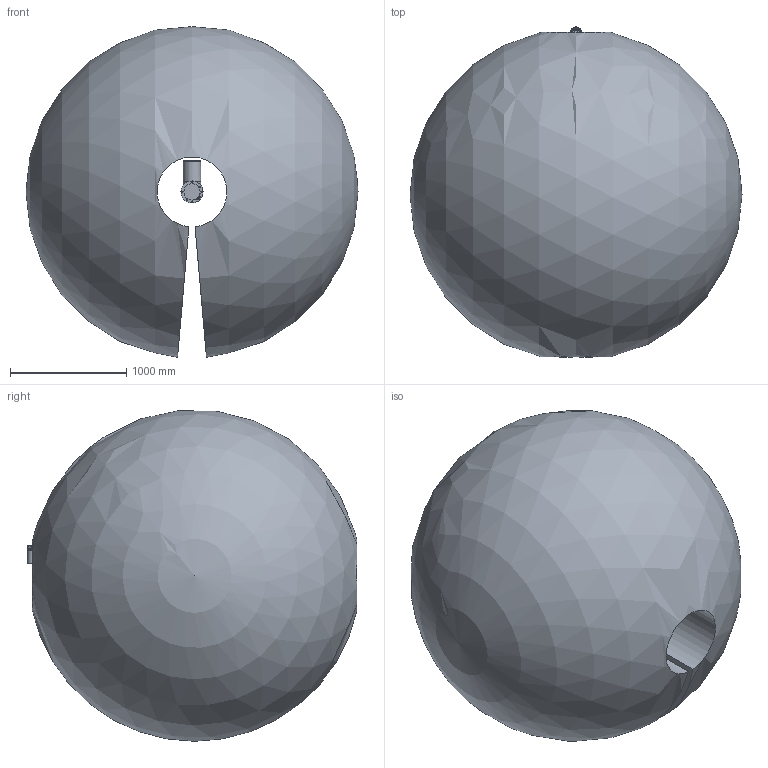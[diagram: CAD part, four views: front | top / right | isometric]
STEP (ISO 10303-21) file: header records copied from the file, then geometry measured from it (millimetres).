
FILE_DESCRIPTION (( 'STEP AP214' ), '1' );
FILE_NAME ('FR10-V6.0-外发模型-包络图.STEP', '2025-12-27T22:20:55', ( '崔兵' ), ( '' ), 'SwSTEP 2.0', 'SolidWorks 2018', '' );
FILE_SCHEMA (( 'AUTOMOTIVE_DESIGN' ));
Length unit declared in the file: millimetre
Products named in the file (8): RD20-FR10-V6.0-7; RD20-FR10-V6.0-1; RD20-FR10-V6.0-3; RD20-FR10-V6.0-4; FR10堍雄寢慫; FR10-V6.0-俋楷耀倰-婦釐芞; RD20-FR10-V6.0-5; RD20-FR10-V6.0-2
Assembly tree (8 placements, depth 2):
  FR10-V6.0-俋楷耀倰-婦釐芞
    RD20-FR10-V6.0-1
    RD20-FR10-V6.0-2
    RD20-FR10-V6.0-3
    RD20-FR10-V6.0-4
    RD20-FR10-V6.0-5  x2
    RD20-FR10-V6.0-7
    FR10堍雄寢慫
Bounding box: 2862 x 2843.98 x 2849.74 mm (x, y, z)
Volume: 11173067060 mm3; surface area: 35481651.7 mm2
Topology: 15 solids, 45 shells, 1480 faces, 3445 edges, 2185 vertices
Faces by surface type: plane 744, cylinder 370, bspline 143, cone 103, sphere 62, torus 58
Full cylindrical faces by diameter (mm): 2.5 x8, 3 x16, 3.4 x8, 5 x4, 5.5 x8, 6 x14, 8 x4, 9.995 x2, 12 x2, 14.1 x2, 16.1 x2, 31.5 x1, 46 x1, 63 x1, 76 x1, 76.1 x1, 80 x2, 84 x1, 88 x2, 90 x4, 94 x1, 95 x1, 110 x1, 113.722 x1, 114.4 x1, 115 x1, 116 x3, 122.1 x1, 127.5 x2, 128.5 x2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
Entity records: 110947 total; most frequent: CARTESIAN_POINT 78327, ORIENTED_EDGE 5624, DIRECTION 5567, EDGE_CURVE 2812, AXIS2_PLACEMENT_3D 2162, VERTEX_POINT 1889, EDGE_LOOP 1763, FACE_OUTER_BOUND 1494
